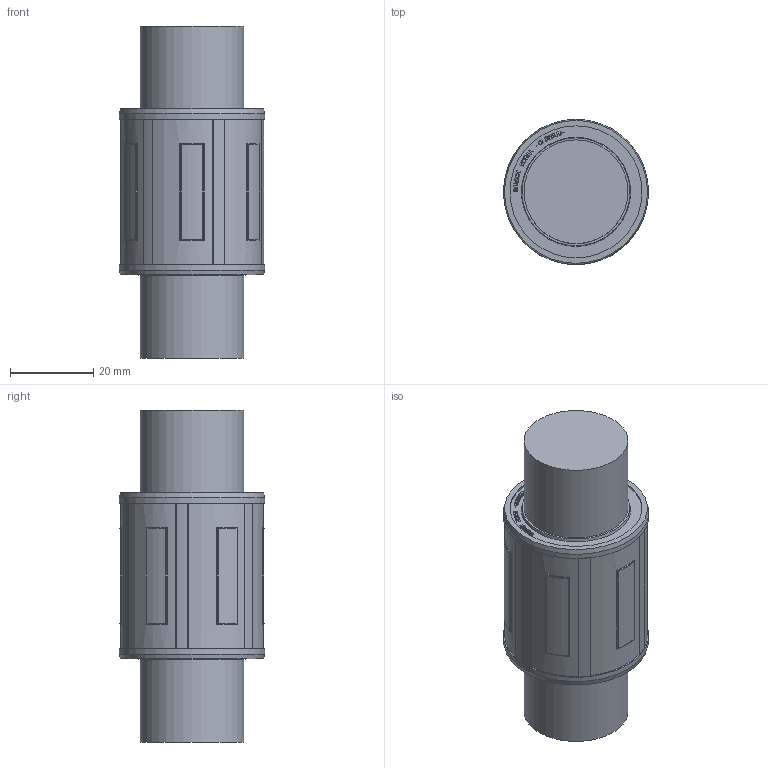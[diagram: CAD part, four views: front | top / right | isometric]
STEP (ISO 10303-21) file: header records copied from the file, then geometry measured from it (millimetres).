
FILE_DESCRIPTION(/* description */ (''),/* implementation_level */ '2;1');
FILE_NAME(/* name */ 'C:\Users\조경제\OneDrive - mysamick.com\바탕 화면\STP\STP_rev1\CLB25UU.stp',/* time_stamp */ '2025-02-05T13:37:43+09:00',/* author */ ('조경제'),/* organization */ (''),/* preprocessor_version */ 'ST-DEVELOPER v17',/* originating_system */ 'Autodesk Inventor 2019',/* authorisation */ '');
FILE_SCHEMA (('AUTOMOTIVE_DESIGN { 1 0 10303 214 3 1 1 }'));
Length unit declared in the file: millimetre
Products named in the file (1): CLB25UU
Bounding box: 35 x 35 x 80 mm (x, y, z)
Volume: 56796.9 mm3; surface area: 10739.6 mm2
Topology: 1 solids, 1 shells, 1156 faces, 3204 edges, 2124 vertices
Faces by surface type: bspline 728, plane 328, cylinder 80, torus 14, cone 6
Full cylindrical faces by diameter (mm): 25 x2, 32 x2, 32.1 x2, 35 x2
Entity records: 40133 total; most frequent: CARTESIAN_POINT 14137, ORIENTED_EDGE 6408, EDGE_CURVE 3204, DIRECTION 2880, VERTEX_POINT 2124, LINE 1522, VECTOR 1522, B_SPLINE_CURVE_WITH_KNOTS 1432
